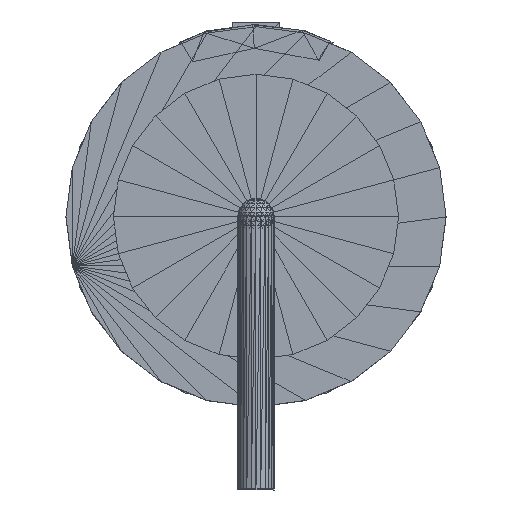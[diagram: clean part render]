
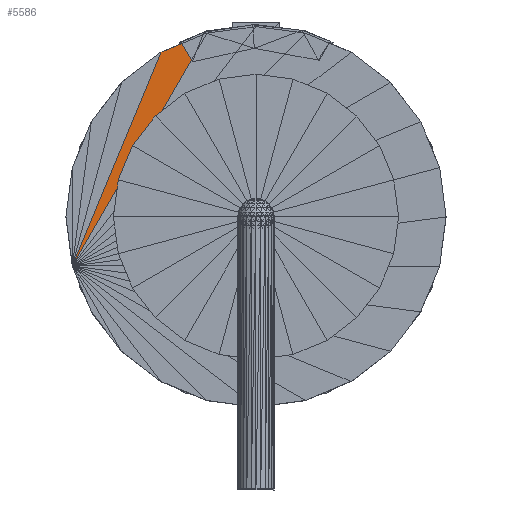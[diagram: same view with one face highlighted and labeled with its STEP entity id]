
A CAD part, left-side view. The second image highlights one B-rep face of the part: STEP entity #5586.
In plain terms, the highlighted planar face has unit normal (-1, 0, 0).
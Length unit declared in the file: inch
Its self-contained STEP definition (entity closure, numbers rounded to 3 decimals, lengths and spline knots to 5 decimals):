
#5171=CARTESIAN_POINT('',(-0.40351,0.16094,0.12356));
#5172=VERTEX_POINT('',#5171);
#5547=CARTESIAN_POINT('',(-0.40347,0.04306,0.32766));
#5548=VERTEX_POINT('',#5547);
#5555=CARTESIAN_POINT('',(-0.40351,0.16095,0.12356));
#5556=DIRECTION('',(0.,-0.5,0.866));
#5557=VECTOR('',#5556,0.2357);
#5558=LINE('',#5555,#5557);
#5559=EDGE_CURVE('',#5172,#5548,#5558,.T.);
#5564=CARTESIAN_POINT('',(-0.40351,0.16095,0.12356));
#5565=DIRECTION('',(-1.,0.,0.));
#5566=DIRECTION('',(0.,-0.519,0.855));
#5567=AXIS2_PLACEMENT_3D('',#5564,#5565,#5566);
#5568=PLANE('',#5567);
#5569=ORIENTED_EDGE('',*,*,#5559,.T.);
#5570=CARTESIAN_POINT('',(-0.40347,0.08326,0.31101));
#5571=VERTEX_POINT('',#5570);
#5572=CARTESIAN_POINT('',(-0.40347,0.08326,0.31101));
#5573=DIRECTION('',(0.,-0.924,0.383));
#5574=VECTOR('',#5573,0.04351);
#5575=LINE('',#5572,#5574);
#5576=EDGE_CURVE('',#5571,#5548,#5575,.T.);
#5577=ORIENTED_EDGE('',*,*,#5576,.F.);
#5578=CARTESIAN_POINT('',(-0.40351,0.16095,0.12356));
#5579=DIRECTION('',(0.,-0.383,0.924));
#5580=VECTOR('',#5579,0.20291);
#5581=LINE('',#5578,#5580);
#5582=EDGE_CURVE('',#5172,#5571,#5581,.T.);
#5583=ORIENTED_EDGE('',*,*,#5582,.F.);
#5584=EDGE_LOOP('',(#5569,#5577,#5583));
#5585=FACE_BOUND('',#5584,.T.);
#5586=ADVANCED_FACE('',(#5585),#5568,.T.);
